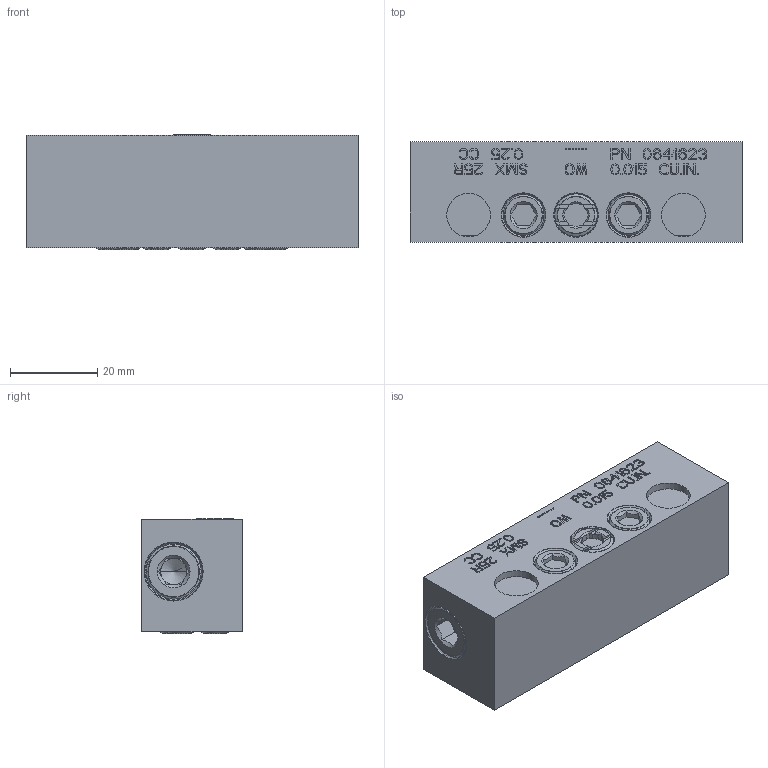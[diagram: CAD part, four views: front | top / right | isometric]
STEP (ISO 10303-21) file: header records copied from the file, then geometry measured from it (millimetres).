
FILE_DESCRIPTION((''),'2;1');
FILE_NAME('0641623_SMX_25R','2023-07-21T12:28:36',('pietro.masciave'),(''),'CREO PARAMETRIC BY PTC INC, 2022281','CREO PARAMETRIC BY PTC INC, 2022281','');
FILE_SCHEMA(('CONFIG_CONTROL_DESIGN'));
Length unit declared in the file: millimetre
Products named in the file (1): 0641623_SMX_25R
Bounding box: 76 x 23 x 26.33 mm (x, y, z)
Volume: 44005.9 mm3; surface area: 12662.8 mm2
Topology: 1 solids, 14 shells, 1329 faces, 3680 edges, 2445 vertices
Faces by surface type: plane 1153, cylinder 110, cone 44, torus 22
Entity records: 43006 total; most frequent: CARTESIAN_POINT 8780, ORIENTED_EDGE 7312, DIRECTION 6617, EDGE_CURVE 3676, VECTOR 3241, LINE 3241, VERTEX_POINT 2445, AXIS2_PLACEMENT_3D 1688
